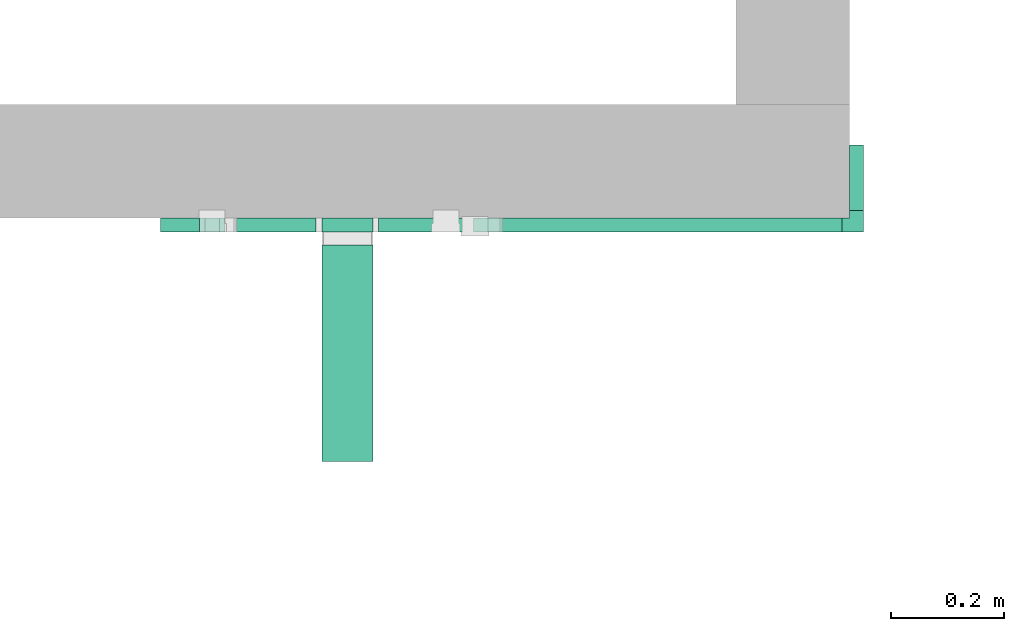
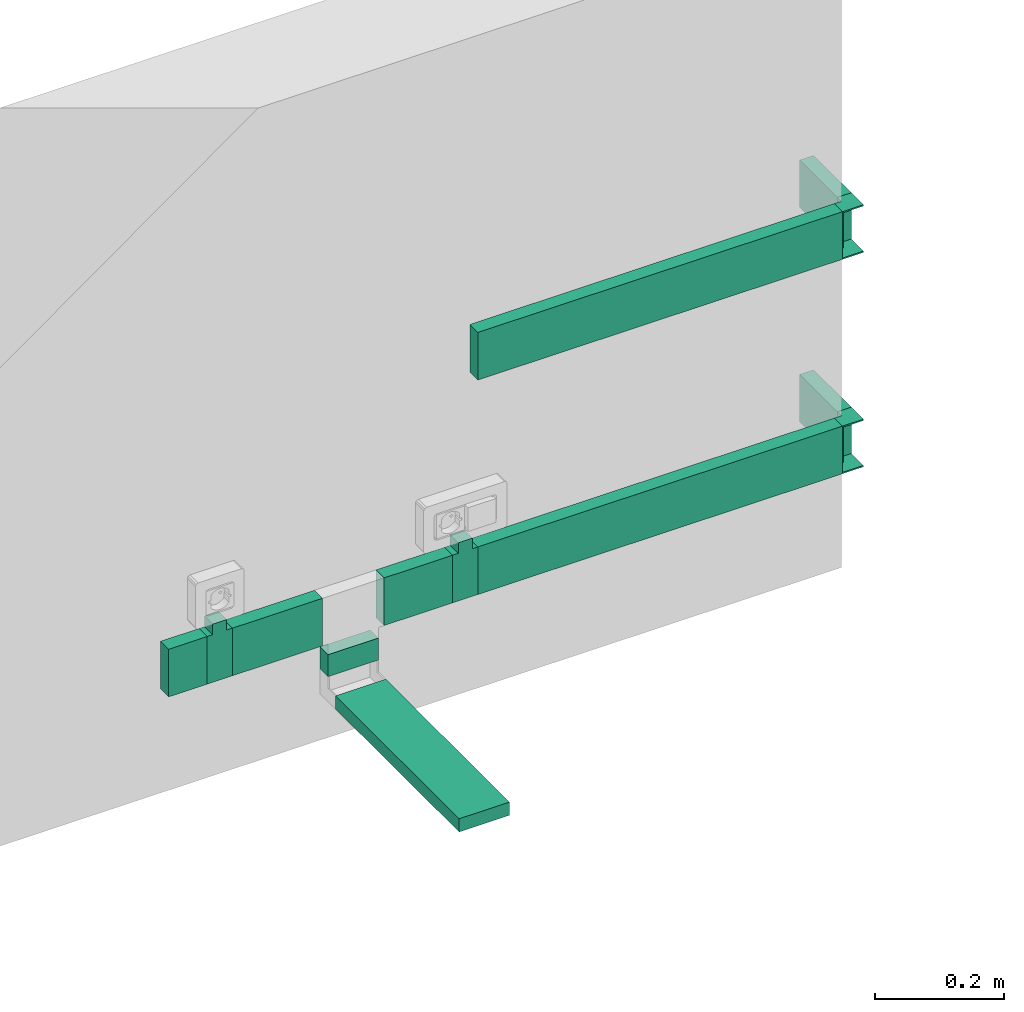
# One storey, part 4 of 87: 9 flow segments, 4 flow fittings.
"""IFC2X3 building model written with IfcOpenShell, lengths in millimetres."""

from ifc_helpers import new_model, entity, si_unit, converted_unit, derived_unit, direction, frame, frame_2d, origin, origin_2d_with_axis, place, context, subcontext, project, spatial, rectangle, extrude, faceted_brep, source, transform, mapped, material, type_object, type_shapes, element, save


model = new_model("IFC2X3")

# Units and contexts
model_context = context("Model", 3, precision=0.01, world=origin(), true_north=direction((6.12303176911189e-17, 1.0)))
body_context = subcontext(model_context, "Body", "Model", "MODEL_VIEW")
ifc_project = project(units=[si_unit("LENGTHUNIT", "METRE", prefix="MILLI"), si_unit("AREAUNIT", "SQUARE_METRE"), si_unit("VOLUMEUNIT", "CUBIC_METRE"), converted_unit("PLANEANGLEUNIT", "DEGREE", entity("IfcRatioMeasure", 0.0174532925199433), si_unit("PLANEANGLEUNIT", "RADIAN"), dimensions=[0, 0, 0, 0, 0, 0, 0]), si_unit("MASSUNIT", "GRAM", prefix="KILO"), derived_unit("MASSDENSITYUNIT", [(si_unit("MASSUNIT", "GRAM", prefix="KILO"), 1), (si_unit("LENGTHUNIT", "METRE"), -3)]), si_unit("TIMEUNIT", "SECOND"), si_unit("FREQUENCYUNIT", "HERTZ"), si_unit("THERMODYNAMICTEMPERATUREUNIT", "DEGREE_CELSIUS"), derived_unit("THERMALTRANSMITTANCEUNIT", [(si_unit("MASSUNIT", "GRAM", prefix="KILO"), 1), (si_unit("THERMODYNAMICTEMPERATUREUNIT", "KELVIN"), -1), (si_unit("TIMEUNIT", "SECOND"), -3)]), derived_unit("VOLUMETRICFLOWRATEUNIT", [(si_unit("LENGTHUNIT", "METRE"), 3), (si_unit("TIMEUNIT", "SECOND"), -1)]), si_unit("ELECTRICCURRENTUNIT", "AMPERE"), si_unit("ELECTRICVOLTAGEUNIT", "VOLT"), si_unit("POWERUNIT", "WATT"), si_unit("FORCEUNIT", "NEWTON", prefix="KILO"), si_unit("ILLUMINANCEUNIT", "LUX"), si_unit("LUMINOUSFLUXUNIT", "LUMEN"), si_unit("LUMINOUSINTENSITYUNIT", "CANDELA"), derived_unit("USERDEFINED", [(si_unit("MASSUNIT", "GRAM", prefix="KILO"), -1), (si_unit("LENGTHUNIT", "METRE"), -2), (si_unit("TIMEUNIT", "SECOND"), 3), (si_unit("LUMINOUSFLUXUNIT", "LUMEN"), 1)]), derived_unit("LINEARVELOCITYUNIT", [(si_unit("LENGTHUNIT", "METRE"), 1), (si_unit("TIMEUNIT", "SECOND"), -1)]), si_unit("PRESSUREUNIT", "PASCAL"), derived_unit("USERDEFINED", [(si_unit("LENGTHUNIT", "METRE"), -2), (si_unit("MASSUNIT", "GRAM", prefix="KILO"), 1), (si_unit("TIMEUNIT", "SECOND"), -2)])], contexts=[model_context])

# Site, building, storey
site_placement = place(None, origin())
site = spatial("IfcSite", under=ifc_project, at=site_placement, Name="Default", CompositionType="ELEMENT")
building_placement = place(site_placement, origin())
building = spatial("IfcBuilding", under=site, at=building_placement, Name="Наименование здания", CompositionType="ELEMENT")
storey_placement = place(building_placement, origin())
storey = spatial("IfcBuildingStorey", under=building, at=storey_placement, Name="Этаж 01", CompositionType="ELEMENT", Elevation=0.0)

# Flow segments
cable_carrier_segment_type = type_object("IfcCableCarrierSegmentType", Name="Кабельный лоток с соединительными деталями:Кабельный короб с боковой и фронтальной крышками", PredefinedType="CABLETRAYSEGMENT")
flow_segment_1_placement = place(storey_placement, origin())
element("IfcFlowSegment", 1, at=flow_segment_1_placement, inside=storey, type_object=cable_carrier_segment_type, Name="Кабельный лоток с соединительными деталями:Кабельный короб с боковой и фронтальной крышками", ObjectType="Кабельный лоток с соединительными деталями:Кабельный короб с боковой и фронтальной крышками", context=body_context, shape_type="SweptSolid", body=[
    extrude(rectangle(XDim=68.7000000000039, YDim=24.9999999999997, at=frame_2d((-1.08357767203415e-12, 0.0), x_axis=(1.0, 0.0))), frame((-15702.8158098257, -3985.38925968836, 196.5), z_axis=(0.0, 0.0, 1.0), x_axis=(-1.0, 0.0, 0.0)), (0.0, 0.0, 1.0), 90.0),
])
flow_segment_2_placement = place(storey_placement, origin())
element("IfcFlowSegment", 2, at=flow_segment_2_placement, inside=storey, type_object=cable_carrier_segment_type, Name="Кабельный лоток с соединительными деталями:Кабельный короб с боковой и фронтальной крышками", ObjectType="Кабельный лоток с соединительными деталями:Кабельный короб с боковой и фронтальной крышками", context=body_context, shape_type="SweptSolid", body=[
    extrude(rectangle(XDim=651.300000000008, YDim=24.9999999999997, at=origin_2d_with_axis()), frame((-14859.1158098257, -3985.38925968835, 196.500000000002), z_axis=(0.0, 0.0, 1.0), x_axis=(-1.0, 0.0, 0.0)), (0.0, 0.0, 1.0), 90.0),
])
flow_segment_3_placement = place(storey_placement, origin())
element("IfcFlowSegment", 3, at=flow_segment_3_placement, inside=storey, type_object=cable_carrier_segment_type, Name="Кабельный лоток с соединительными деталями:Кабельный короб с боковой и фронтальной крышками", ObjectType="Кабельный лоток с соединительными деталями:Кабельный короб с боковой и фронтальной крышками", context=body_context, shape_type="SweptSolid", body=[
    extrude(rectangle(XDim=122.499999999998, YDim=24.9999999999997, at=frame_2d((0.0, -2.70894418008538e-13), x_axis=(1.0, 0.0))), frame((-15291.0158098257, -3985.38925968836, 196.500000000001)), (0.0, 0.0, 1.0), 90.0),
])
flow_segment_4_placement = place(storey_placement, origin())
element("IfcFlowSegment", 4, at=flow_segment_4_placement, inside=storey, type_object=cable_carrier_segment_type, Name="Кабельный лоток с соединительными деталями:Кабельный короб с боковой и фронтальной крышками", ObjectType="Кабельный лоток с соединительными деталями:Кабельный короб с боковой и фронтальной крышками", context=body_context, shape_type="SweptSolid", body=[
    extrude(rectangle(XDim=382.691717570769, YDim=90.0000000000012, at=frame_2d((-2.70006239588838e-13, 0.0), x_axis=(1.0, 0.0))), frame((-15407.2658098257, -4211.93511847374, 87.5000000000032), z_axis=(0.0, 0.0, 1.0), x_axis=(0.0, 1.0, 0.0)), (0.0, 0.0, 1.0), 25.0),
])
flow_segment_5_placement = place(storey_placement, origin())
element("IfcFlowSegment", 5, at=flow_segment_5_placement, inside=storey, type_object=cable_carrier_segment_type, Name="Кабельный лоток с соединительными деталями:Кабельный короб с боковой и фронтальной крышками", ObjectType="Кабельный лоток с соединительными деталями:Кабельный короб с боковой и фронтальной крышками", context=body_context, shape_type="SweptSolid", body=[
    extrude(rectangle(XDim=90.0000000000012, YDim=24.9999999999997, at=origin_2d_with_axis()), frame((-15407.2658098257, -3985.38925968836, 135.0)), (0.0, 0.0, 1.0), 41.4999999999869),
])
flow_segment_6_placement = place(storey_placement, origin())
element("IfcFlowSegment", 6, at=flow_segment_6_placement, inside=storey, type_object=cable_carrier_segment_type, Name="Кабельный лоток с соединительными деталями:Кабельный короб с боковой и фронтальной крышками", ObjectType="Кабельный лоток с соединительными деталями:Кабельный короб с боковой и фронтальной крышками", context=body_context, shape_type="SweptSolid", body=[
    extrude(rectangle(XDim=161.200000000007, YDim=24.9999999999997, at=frame_2d((0.0, -2.70894418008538e-13), x_axis=(1.0, 0.0))), frame((-15542.8658098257, -3985.38925968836, 196.5)), (0.0, 0.0, 1.0), 90.0),
])
flow_segment_7_placement = place(storey_placement, origin())
element("IfcFlowSegment", 7, at=flow_segment_7_placement, inside=storey, type_object=cable_carrier_segment_type, Name="Кабельный лоток с соединительными деталями:Кабельный короб с боковой и фронтальной крышками", ObjectType="Кабельный лоток с соединительными деталями:Кабельный короб с боковой и фронтальной крышками", context=body_context, shape_type="SweptSolid", body=[
    extrude(rectangle(XDim=116.499999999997, YDim=24.9999999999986, at=origin_2d_with_axis()), frame((-14508.4658098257, -3902.13925968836, 196.500000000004), z_axis=(0.0, 0.0, 1.0), x_axis=(0.0, 1.0, 0.0)), (0.0, 0.0, 1.0), 90.0),
])
flow_segment_8_placement = place(storey_placement, origin())
element("IfcFlowSegment", 8, at=flow_segment_8_placement, inside=storey, type_object=cable_carrier_segment_type, Name="Кабельный лоток с соединительными деталями:Кабельный короб с боковой и фронтальной крышками", ObjectType="Кабельный лоток с соединительными деталями:Кабельный короб с боковой и фронтальной крышками", context=body_context, shape_type="SweptSolid", body=[
    extrude(rectangle(XDim=651.300000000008, YDim=24.9999999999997, at=origin_2d_with_axis()), frame((-14859.1158098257, -3985.38925968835, 601.499999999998), z_axis=(0.0, 0.0, 1.0), x_axis=(-1.0, 0.0, 0.0)), (0.0, 0.0, 1.0), 90.0),
])
flow_segment_9_placement = place(storey_placement, origin())
element("IfcFlowSegment", 9, at=flow_segment_9_placement, inside=storey, type_object=cable_carrier_segment_type, Name="Кабельный лоток с соединительными деталями:Кабельный короб с боковой и фронтальной крышками", ObjectType="Кабельный лоток с соединительными деталями:Кабельный короб с боковой и фронтальной крышками", context=body_context, shape_type="SweptSolid", body=[
    extrude(rectangle(XDim=116.499999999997, YDim=24.9999999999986, at=origin_2d_with_axis()), frame((-14508.4658098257, -3902.13925968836, 601.500000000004), z_axis=(0.0, 0.0, 1.0), x_axis=(0.0, 1.0, 0.0)), (0.0, 0.0, 1.0), 90.0000000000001),
])

# Flow fittings
ifc_material = material(Name="DKC_Пластик_Белый")
cable_carrier_fitting_type_1 = type_object("IfcCableCarrierFittingType", Name="Отвод узкий к коробкам", PredefinedType="NOTDEFINED", material=ifc_material)
shared_shape_1 = source(origin(), body_context, "Body", "Brep", [
    faceted_brep([(-12.4999999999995, -45.0, 12.5), (-12.4999999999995, -65.0, 12.5), (12.4999999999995, -65.0, 12.5), (12.4999999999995, -45.0, 12.5), (22.5, -45.0, 12.5), (22.5, 45.0, 12.5), (-22.4999999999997, 45.0, 12.5), (-22.4999999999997, -45.0, 12.5), (-12.4999999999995, -45.0, -12.5), (-22.4999999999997, -45.0, -12.5), (-22.4999999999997, 45.0, -12.5), (22.5, 45.0, -12.5), (22.5, -45.0, -12.5), (12.4999999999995, -45.0, -12.5), (12.4999999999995, -65.0, -12.5), (-12.4999999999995, -65.0, -12.5)], [[[0, 1, 2, 3, 4, 5, 6, 7]], [[8, 9, 10, 11, 12, 13, 14, 15]], [[7, 9, 8, 0]], [[6, 10, 9, 7]], [[5, 11, 10, 6]], [[4, 12, 11, 5]], [[3, 13, 12, 4]], [[2, 14, 13, 3]], [[1, 15, 14, 2]], [[0, 8, 15, 1]]]),
    faceted_brep([(22.5000000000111, 42.4999999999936, -10.0), (-22.4999999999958, 42.4999999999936, -10.0), (-22.4999999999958, -42.500000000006, -10.0), (-10.0, -42.500000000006, -10.0), (-10.0, -65.0, -10.0), (10.0, -65.0, -10.0), (10.0, -42.5000000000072, -10.0), (22.5000000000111, -42.5000000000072, -10.0), (22.5000000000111, 45.0, -12.4999999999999), (22.5000000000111, -45.0, -12.4999999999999), (12.4999999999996, -45.0, -12.5), (12.4999999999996, -65.0, -12.5), (-12.4999999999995, -65.0, -12.5), (-12.4999999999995, -45.0, -12.5), (-22.4999999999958, -45.0, -12.5000000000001), (-22.4999999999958, 45.0, -12.5000000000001), (22.5000000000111, 45.0, 12.5000000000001), (22.5000000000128, 42.4999999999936, 12.5000000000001), (22.5000000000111, -42.5000000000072, 12.5000000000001), (22.5000000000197, -45.0, 12.5000000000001), (12.5000000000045, -45.0, 12.5), (12.5000000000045, -65.0, 12.5), (10.0, -65.0, 12.5), (-10.0, -65.0, 12.5), (-12.4999999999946, -65.0, 12.5), (-12.4999999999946, -45.0, 12.5), (-22.4999999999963, -45.0, 12.4999999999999), (-22.4999999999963, -42.500000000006, 12.4999999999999), (-22.4999999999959, 42.4999999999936, 12.4999999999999), (-22.5000000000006, 45.0, 12.4999999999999), (10.0, -42.5000000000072, 12.5), (-10.0, -42.500000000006, 12.5)], [[[0, 1, 2, 3, 4, 5, 6, 7]], [[8, 9, 10, 11, 12, 13, 14, 15]], [[8, 16, 17, 0, 7, 18, 19, 9]], [[19, 20, 10, 9]], [[20, 21, 11, 10]], [[21, 22, 5, 4, 23, 24, 12, 11]], [[24, 25, 13, 12]], [[25, 26, 14, 13]], [[26, 27, 2, 1, 28, 29, 15, 14]], [[29, 16, 8, 15]], [[20, 19, 18, 30, 22, 21]], [[31, 3, 2, 27]], [[23, 4, 3, 31]], [[30, 6, 5, 22]], [[18, 7, 6, 30]], [[28, 1, 0, 17]], [[25, 24, 23, 31, 27, 26]], [[29, 28, 17, 16]]]),
])
type_shapes(cable_carrier_fitting_type_1, [shared_shape_1])
for number, where, z_axis, x_axis in (
    (10, (-15645.9658098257, -3985.38925968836, 241.499999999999), (0.0, 1.0, 0.0), (1.0, 0.0, 0.0)),
    (11, (-15207.2658098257, -3985.38925968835, 241.500000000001), (0.0, 1.0, 0.0), (1.0, 0.0, 0.0)),
):
    element("IfcFlowFitting", number, at=place(storey_placement, frame(where, z_axis=z_axis, x_axis=x_axis)), inside=storey, type_object=cable_carrier_fitting_type_1, material=ifc_material, Name="КНС_ОтводОтКоробовПлинтусногоТипаККоробкам_ILF_DKC:Отвод узкий к коробкам", ObjectType="Отвод узкий к коробкам", context=body_context, shape_type="MappedRepresentation", body=[
        mapped(shared_shape_1, transform((0.0, 0.0, 0.0), scale=1.0)),
    ])
cable_carrier_fitting_type_2 = type_object("IfcCableCarrierFittingType", Name="Белый", PredefinedType="NOTDEFINED", material=ifc_material)
shared_shape_2 = source(origin(), body_context, "Body", "Brep", [
    faceted_brep([(-25.0, -12.5000000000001, 45.0), (-25.0, 12.4999999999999, 45.0), (-25.0, 12.4999999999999, 42.4600000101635), (-25.0, -9.96000001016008, 42.4600000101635), (-25.0, -9.96000001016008, -42.4600000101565), (-25.0, 12.4999999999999, -42.4600000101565), (-25.0, 12.4999999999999, -45.0), (-25.0, -12.5000000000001, -45.0), (-12.4999999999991, -25.0, 45.0), (-12.4999999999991, -25.0, -45.0), (12.5000000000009, -25.0, -45.0), (12.5000000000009, -25.0, -42.4600000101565), (-9.96000001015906, -25.0, -42.4600000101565), (-9.96000001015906, -25.0, 42.4600000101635), (12.5000000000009, -25.0, 42.4600000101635), (12.5000000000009, -25.0, 45.0), (-12.4999999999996, -12.5, -45.0), (-12.4999999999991, -12.5, 45.0), (12.5000000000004, 12.5, -45.0), (12.5000000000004, 12.5, -42.4600000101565), (-9.96000001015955, -9.96000001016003, -42.4600000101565), (-9.96000001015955, -9.96000001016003, 42.4600000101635), (12.5000000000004, 12.5, 42.4600000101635), (12.5000000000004, 12.5, 45.0)], [[[0, 1, 2, 3, 4, 5, 6, 7]], [[8, 9, 10, 11, 12, 13, 14, 15]], [[7, 16, 17, 0]], [[6, 18, 10, 9, 16, 7]], [[5, 19, 18, 6]], [[4, 20, 12, 11, 19, 5]], [[3, 21, 20, 4]], [[2, 22, 14, 13, 21, 3]], [[1, 23, 22, 2]], [[0, 17, 8, 15, 23, 1]], [[16, 9, 8, 17]], [[19, 11, 10, 18]], [[21, 13, 12, 20]], [[23, 15, 14, 22]]]),
])
type_shapes(cable_carrier_fitting_type_2, [shared_shape_2])
for number, where, z_axis, x_axis in (
    (12, (-14508.4658098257, -3985.38925968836, 241.500000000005), (0.0, 0.0, -1.0), (1.0, 0.0, 0.0)),
    (13, (-14508.4658098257, -3985.38925968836, 646.500000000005), (0.0, 0.0, -1.0), (1.0, 0.0, 0.0)),
):
    element("IfcFlowFitting", number, at=place(storey_placement, frame(where, z_axis=z_axis, x_axis=x_axis)), inside=storey, type_object=cable_carrier_fitting_type_2, material=ifc_material, Name="КНС_УголВнешний_ILF_DKC:Белый", ObjectType="Белый", context=body_context, shape_type="MappedRepresentation", body=[
        mapped(shared_shape_2, transform((0.0, 0.0, 0.0), scale=1.0)),
    ])

save(model, "model.ifc")
